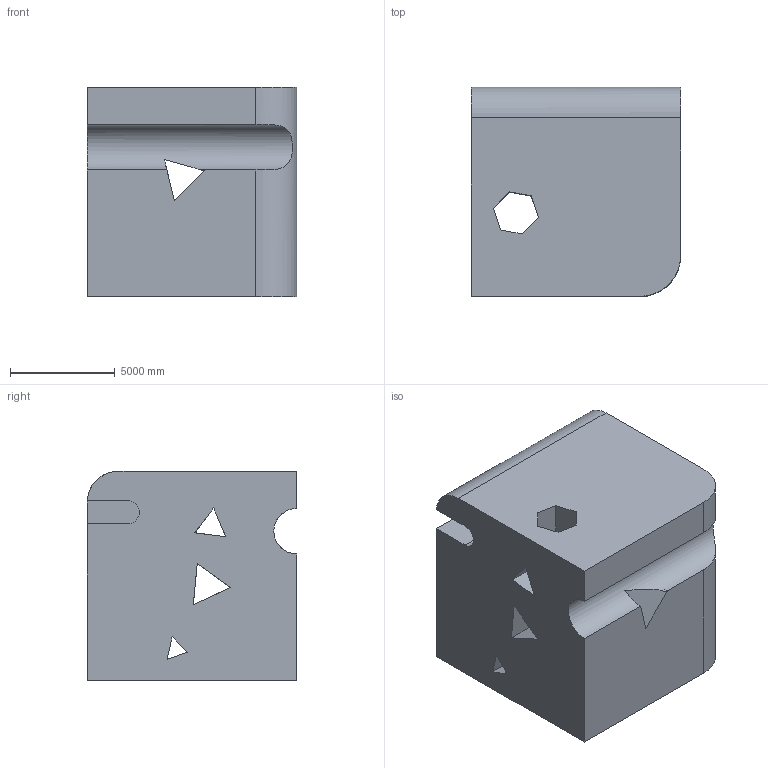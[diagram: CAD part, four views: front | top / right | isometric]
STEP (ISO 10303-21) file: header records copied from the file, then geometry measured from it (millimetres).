
FILE_DESCRIPTION (( 'STEP AP203' ), '1' );
FILE_NAME ('177.STEP', '2022-08-31T12:11:38', ( 'user' ), ( '' ), 'SwSTEP 2.0', 'SolidWorks 2021', '' );
FILE_SCHEMA (( 'CONFIG_CONTROL_DESIGN' ));
Length unit declared in the file: centimetre
Products named in the file (1): 177
Bounding box: 10000 x 10000 x 10000 mm (x, y, z)
Volume: 876865811349.9 mm3; surface area: 840919363.6 mm2
Topology: 1 solids, 1 shells, 41 faces, 138 edges, 92 vertices
Faces by surface type: plane 37, cylinder 4
Entity records: 1784 total; most frequent: CARTESIAN_POINT 475, ORIENTED_EDGE 276, DIRECTION 227, EDGE_CURVE 138, LINE 127, VECTOR 127, VERTEX_POINT 92, AXIS2_PLACEMENT_3D 50
